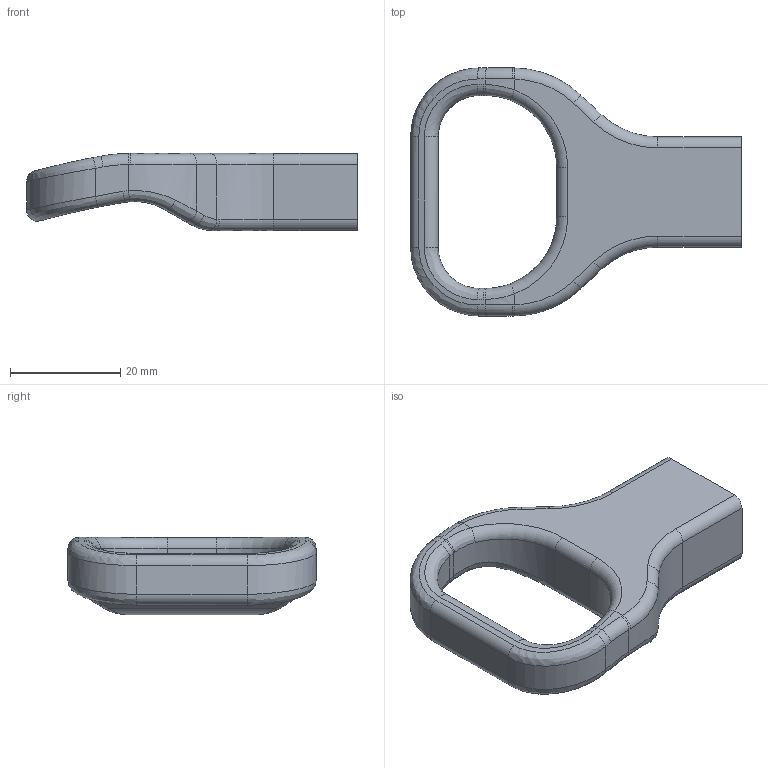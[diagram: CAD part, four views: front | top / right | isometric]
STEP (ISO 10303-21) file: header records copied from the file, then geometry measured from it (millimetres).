
FILE_DESCRIPTION(('CATIA V5 STEP Exchange'),'2;1');
FILE_NAME('D:\交接\张长江\21-Benz H6\光华荣昌转盘数据\H6 转盘\转盘用整椅数据 A9609109920\sample\H6 转盘夏季测试样件方案_20240617\样件数据\塑料件\SHT0017294-101 解锁手柄.stp','2024-06-19T03:55:33+00:00',('none'),('none'),'CATIA Version 5 Release 20 GA (IN-10)','CATIA V5 STEP AP203 Edition 2','none');
FILE_SCHEMA(('AP203_CONFIGURATION_CONTROLLED_3D_DESIGN_OF_MECHANICAL_PARTS_AND_ASSEMBLIES_MIM_LF { 1 0 10303 403 2 1 2}'));
Length unit declared in the file: millimetre
Products named in the file (1): SHT0017294-10
Bounding box: 60 x 45 x 14 mm (x, y, z)
Volume: 13786.6 mm3; surface area: 5871.2 mm2
Topology: 1 solids, 1 shells, 103 faces, 246 edges, 144 vertices
Faces by surface type: cylinder 33, bspline 28, plane 22, torus 20
Entity records: 4762 total; most frequent: CARTESIAN_POINT 2668, ORIENTED_EDGE 492, DIRECTION 297, EDGE_CURVE 246, AXIS2_PLACEMENT_3D 154, VERTEX_POINT 144, EDGE_LOOP 104, ADVANCED_FACE 103
